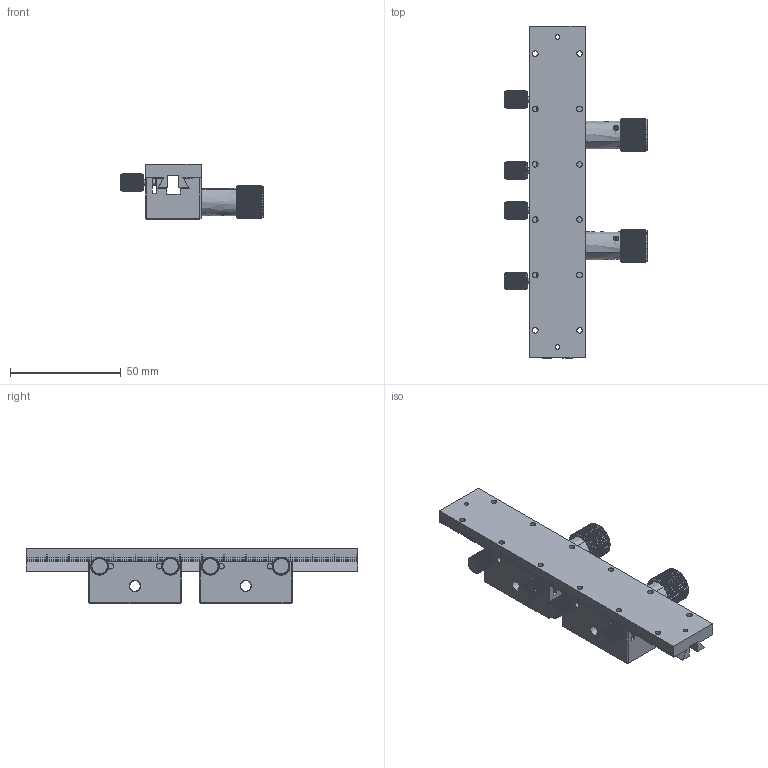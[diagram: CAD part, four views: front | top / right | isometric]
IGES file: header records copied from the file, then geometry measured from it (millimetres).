
Start section: SolidWorks IGES file using analytic representation for surfaces
Bounding box: 64.21 x 150 x 25 mm (x, y, z)
Surface area: 37103.7 mm2 (no closed solid volume)
Topology: 0 solids, 0 shells, 2276 faces, 16576 edges, 16536 vertices
Faces by surface type: bspline 1446, revolution 830
